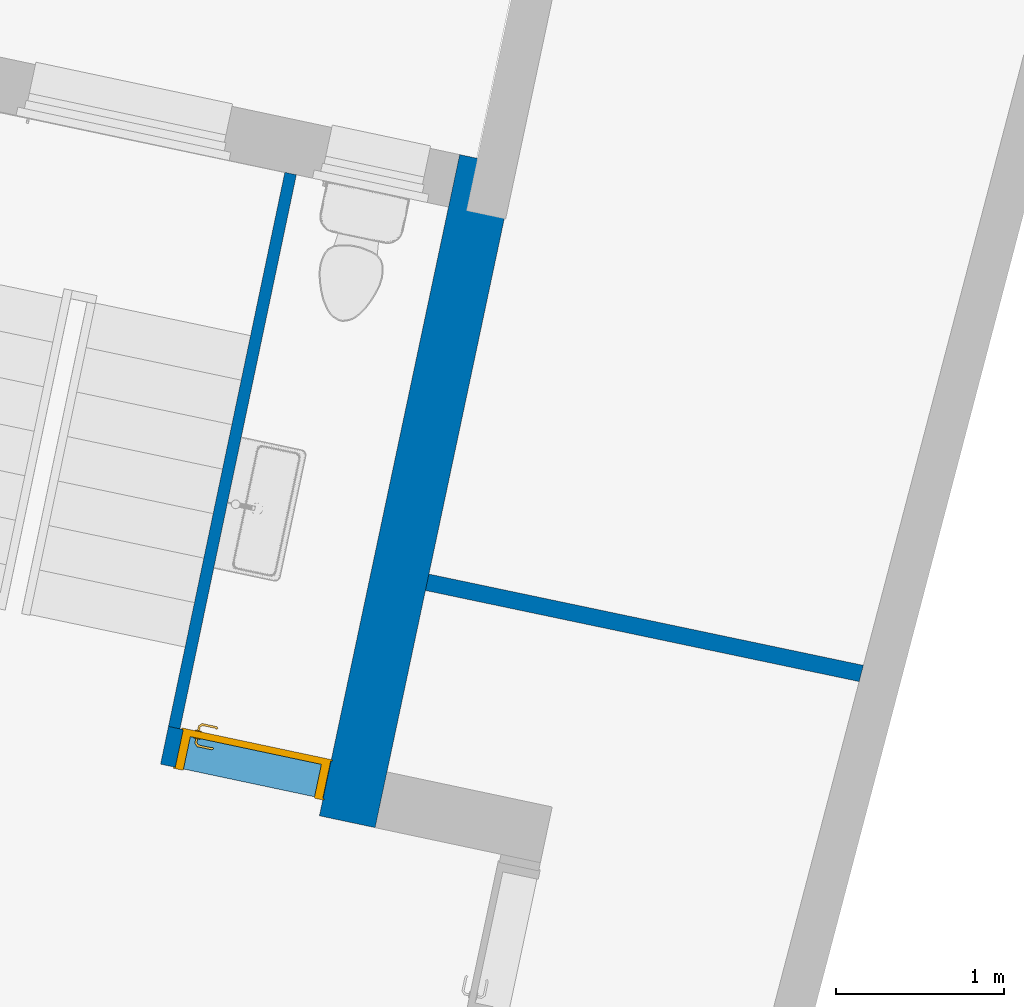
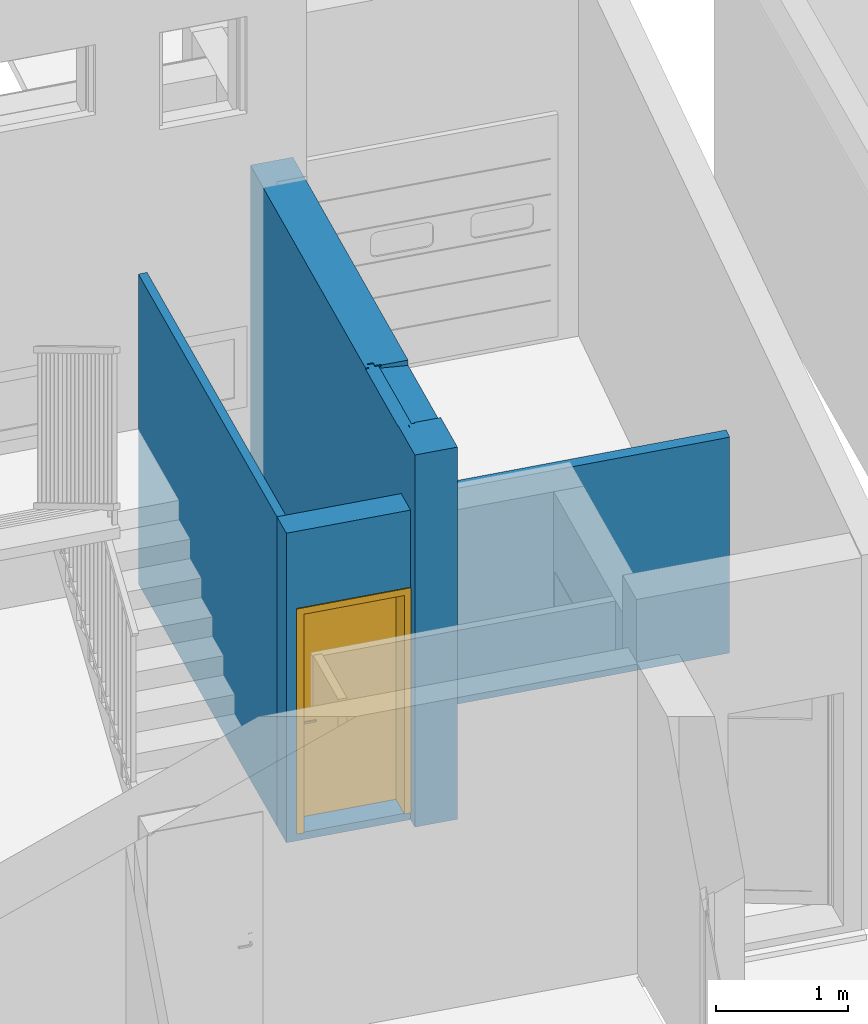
"""IFC2X3 building model written with IfcOpenShell, lengths in metres."""

from ifc_helpers import new_model, entity, si_unit, converted_unit, derived_unit, direction, frame, frame_2d, origin, place, context, subcontext, project, spatial, polyline, rectangle, outline, extrude, faceted_brep, source, transform, mapped, material, material_list, layer, layer_set, layer_usage, type_object, type_shapes, element, fill, save


model = new_model("IFC2X3")

# Units and contexts
model_context = context("Model", 3, precision=1e-05, world=origin(), true_north=direction((6.12303176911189e-17, 1.0)))
body_context = subcontext(model_context, "Body", "Model", "MODEL_VIEW")
ifc_project = project(units=[si_unit("LENGTHUNIT", "METRE"), si_unit("AREAUNIT", "SQUARE_METRE"), si_unit("VOLUMEUNIT", "CUBIC_METRE"), converted_unit("PLANEANGLEUNIT", "DEGREE", entity("IfcRatioMeasure", 0.0174532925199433), si_unit("PLANEANGLEUNIT", "RADIAN"), dimensions=[0, 0, 0, 0, 0, 0, 0]), si_unit("MASSUNIT", "GRAM", prefix="KILO"), derived_unit("MASSDENSITYUNIT", [(si_unit("MASSUNIT", "GRAM", prefix="KILO"), 1), (si_unit("LENGTHUNIT", "METRE"), -3)]), si_unit("TIMEUNIT", "SECOND"), si_unit("FREQUENCYUNIT", "HERTZ"), si_unit("THERMODYNAMICTEMPERATUREUNIT", "DEGREE_CELSIUS"), derived_unit("THERMALTRANSMITTANCEUNIT", [(si_unit("MASSUNIT", "GRAM", prefix="KILO"), 1), (si_unit("THERMODYNAMICTEMPERATUREUNIT", "KELVIN"), -1), (si_unit("TIMEUNIT", "SECOND"), -3)]), derived_unit("VOLUMETRICFLOWRATEUNIT", [(si_unit("LENGTHUNIT", "METRE"), 3), (si_unit("TIMEUNIT", "SECOND"), -1)]), si_unit("ELECTRICCURRENTUNIT", "AMPERE"), si_unit("ELECTRICVOLTAGEUNIT", "VOLT"), si_unit("POWERUNIT", "WATT"), si_unit("FORCEUNIT", "NEWTON", prefix="KILO"), si_unit("ILLUMINANCEUNIT", "LUX"), si_unit("LUMINOUSFLUXUNIT", "LUMEN"), si_unit("LUMINOUSINTENSITYUNIT", "CANDELA"), derived_unit("USERDEFINED", [(si_unit("MASSUNIT", "GRAM", prefix="KILO"), -1), (si_unit("LENGTHUNIT", "METRE"), -2), (si_unit("TIMEUNIT", "SECOND"), 3), (si_unit("LUMINOUSFLUXUNIT", "LUMEN"), 1)]), derived_unit("LINEARVELOCITYUNIT", [(si_unit("LENGTHUNIT", "METRE"), 1), (si_unit("TIMEUNIT", "SECOND"), -1)]), si_unit("PRESSUREUNIT", "PASCAL"), derived_unit("USERDEFINED", [(si_unit("LENGTHUNIT", "METRE"), -2), (si_unit("MASSUNIT", "GRAM", prefix="KILO"), 1), (si_unit("TIMEUNIT", "SECOND"), -2)])], contexts=[model_context])

# Site, building, storey
site_placement = place(None, origin())
site = spatial("IfcSite", under=ifc_project, at=site_placement, Name="Default", CompositionType="ELEMENT")
building_placement = place(site_placement, origin())
building = spatial("IfcBuilding", under=site, at=building_placement, CompositionType="ELEMENT")
storey_1_placement = place(building_placement, frame((0.0, 0.0, -0.0686871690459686)))
storey_1 = spatial("IfcBuildingStorey", under=building, at=storey_1_placement, Name="RDC", CompositionType="ELEMENT", Elevation=-0.0686871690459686)

# Wall, openings
ifc_material_1 = material(Name="Enduit blanc cassé2")
ifc_layer_1 = layer(ifc_material_1, 0.02)
ifc_material_2 = material(Name="Parpaing")
ifc_layer_2 = layer(ifc_material_2, 0.2)
ifc_material_3 = material(Name="Isolant")
ifc_layer_3 = layer(ifc_material_3, 0.12)
ifc_layer_set_1 = layer_set([ifc_layer_1, ifc_layer_2, ifc_layer_3], Name="Mur de base:Ext. Parpaing 20 + Isolant 12 enduit blanc cassé 2")
ifc_layer_usage_1 = layer_usage(ifc_layer_set_1, "AXIS2", "POSITIVE", -0.17)
wall_type_1 = type_object("IfcWallType", Name="Mur de base:Ext. Parpaing 20 + Isolant 12 enduit blanc cassé 2", PredefinedType="STANDARD", material=ifc_layer_set_1)
wall_1_placement = place(storey_1_placement, frame((-11.2703405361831, 81.3453273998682, 0.0), z_axis=(0.0, 0.0, 1.0), x_axis=(0.207484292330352, 0.978238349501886, 0.0)))
wall_1 = element("IfcWallStandardCase", 1, at=wall_1_placement, inside=storey_1, type_object=wall_type_1, material=ifc_layer_usage_1, Name="Mur de base:Ext. Parpaing 20 + Isolant 12 enduit blanc cassé 2", ObjectType="Mur de base:Ext. Parpaing 20 + Isolant 12 enduit blanc cassé 2", context=body_context, shape_type="SweptSolid", body=[
    extrude(rectangle(XDim=4.03521271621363, YDim=0.340000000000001, at=frame_2d((2.01760635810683, -2.02615701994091e-15), x_axis=(-1.0, 0.0))), origin(), (0.0, 0.0, 1.0), 3.44868716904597),
])
opening_1_placement = place(wall_1_placement, frame((0.208247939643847, 0.438742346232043, 3.36272671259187)))
element("IfcOpeningElement", 2, at=opening_1_placement, cuts=wall_1, Name="Mur de base:Ext. Parpaing 20 + Isolant 12 enduit blanc cassé 2", ObjectType="Opening", context=body_context, shape_type="Brep", body=[
    faceted_brep([(1.00245285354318, -0.376376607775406, 0.0759604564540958), (1.00247206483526, -0.396376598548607, 0.0759604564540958), (1.00247206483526, -0.396376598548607, 1.67596045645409), (1.00300998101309, -0.956376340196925, 1.67596045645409), (1.00300998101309, -0.956376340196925, 0.0), (1.00245285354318, -0.376376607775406, 0.0609604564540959), (0.202049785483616, 0.0428547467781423, 0.0759604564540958), (0.202376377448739, -0.297145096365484, 0.0759604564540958), (0.202376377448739, -0.297145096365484, 1.67596045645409), (0.202049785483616, 0.0428547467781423, 1.67596045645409), (1.0020494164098, 0.0436231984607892, 0.0759604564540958), (1.00237600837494, -0.29637664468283, 0.0759604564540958), (1.05237598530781, -0.296328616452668, 0.0759604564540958), (1.05242401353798, -0.346328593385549, 0.0759604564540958), (1.01242403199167, -0.346367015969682, 0.0759604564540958), (1.01247206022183, -0.396366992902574, 0.0759604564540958), (0.202453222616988, -0.377145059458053, 0.0759604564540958), (0.202472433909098, -0.39714505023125, 0.0759604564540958), (0.19247243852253, -0.397154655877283, 0.0759604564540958), (0.192424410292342, -0.347154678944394, 0.0759604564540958), (0.152424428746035, -0.347193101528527, 0.0759604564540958), (0.152376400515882, -0.297193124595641, 0.0759604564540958), (1.0020494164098, 0.0436231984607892, 1.67596045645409), (0.202472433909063, -0.397145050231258, 1.67596045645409), (0.203010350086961, -0.957144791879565, 1.67596045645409), (0.203010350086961, -0.957144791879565, 0.0), (0.202453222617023, -0.377145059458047, 0.0609604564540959), (1.05237598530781, -0.296328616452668, 1.72596045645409), (1.05242401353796, -0.346328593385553, 1.72596045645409), (0.152424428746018, -0.347193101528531, 1.72596045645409), (0.192424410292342, -0.347154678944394, 1.68596045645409), (1.01242403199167, -0.346367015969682, 1.68596045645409), (1.01247206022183, -0.396366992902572, 1.68596045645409), (0.19247243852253, -0.397154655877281, 1.68596045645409), (1.00237600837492, -0.296376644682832, 1.67596045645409), (0.152376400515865, -0.297193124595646, 1.72596045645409)], [[[0, 1, 2, 3, 4, 5]], [[6, 7, 8, 9]], [[10, 11, 12, 13, 14, 15, 1, 0, 16, 17, 18, 19, 20, 21, 7, 6]], [[10, 6, 9, 22]], [[3, 2, 23, 24]], [[3, 24, 25, 4]], [[4, 25, 26, 5]], [[5, 26, 16, 0]], [[12, 27, 28, 13]], [[13, 28, 29, 20, 19, 30, 31, 14]], [[14, 31, 32, 15]], [[15, 32, 33, 18, 17, 23, 2, 1]], [[11, 34, 8, 7, 21, 35, 27, 12]], [[27, 35, 29, 28]], [[30, 33, 32, 31]], [[29, 35, 21, 20]], [[19, 18, 33, 30]], [[9, 8, 34, 22]], [[24, 23, 17, 16, 26, 25]], [[22, 34, 11, 10]]]),
])
opening_2_placement = place(wall_1_placement, origin())
element("IfcOpeningElement", 3, at=opening_2_placement, cuts=wall_1, Name="Mur de base:Ext. Parpaing 20 + Isolant 12 enduit blanc cassé 2", ObjectType="Opening", context=body_context, shape_type="SweptSolid", body=[
    extrude(rectangle(XDim=2.075, YDim=0.230000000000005, at=frame_2d((8.9234175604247e-15, 0.0), x_axis=(0.0, 1.0))), frame((0.220000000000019, 0.171874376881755, 1.10618716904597), z_axis=(0.0, 1.0, 0.0), x_axis=(1.0, 0.0, 0.0)), (0.0, 0.0, 1.0), 0.900000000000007),
])
opening_3_placement = place(wall_1_placement, origin())
element("IfcOpeningElement", 4, at=opening_3_placement, cuts=wall_1, Name="Mur de base:Ext. Parpaing 20 + Isolant 12 enduit blanc cassé 2", ObjectType="Opening", context=body_context, shape_type="SweptSolid", body=[
    extrude(rectangle(XDim=2.075, YDim=0.070000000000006, at=frame_2d((8.9234175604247e-15, 3.33066907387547e-16), x_axis=(0.0, 1.0))), frame((1.51000000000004, 0.191681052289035, 3.90618716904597), z_axis=(0.0, 1.0, 0.0), x_axis=(1.0, 0.0, 0.0)), (0.0, 0.0, 1.0), 0.800000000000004),
])

# Wall, opening
ifc_material_4 = material(Name="Blanc - Element de salle de bains")
ifc_layer_4 = layer(ifc_material_4, 0.07)
ifc_layer_set_2 = layer_set([ifc_layer_4], Name="Mur de base:Int.  Platre 70 mm en blanc")
ifc_layer_usage_2 = layer_usage(ifc_layer_set_2, "AXIS2", "POSITIVE", -0.035)
wall_type_2 = type_object("IfcWallType", Name="Mur de base:Int.  Platre 70 mm en blanc", PredefinedType="STANDARD", material=ifc_layer_set_2)
wall_2_placement = place(storey_1_placement, frame((-11.6085144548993, 85.2149850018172, 0.0), z_axis=(0.0, 0.0, 1.0), x_axis=(-0.205556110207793, -0.978645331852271, 0.0)))
wall_2 = element("IfcWallStandardCase", 5, at=wall_2_placement, inside=storey_1, type_object=wall_type_2, material=ifc_layer_usage_2, Name="Mur de base:Int.  Platre 70 mm en blanc", ObjectType="Mur de base:Int.  Platre 70 mm en blanc", context=body_context, shape_type="SweptSolid", body=[
    extrude(outline(polyline([(3.38021927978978, -0.0350000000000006), (3.38035722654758, 0.0350000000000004), (0.000137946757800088, 0.0350000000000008), (0.0, -0.0350000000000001), (3.38021927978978, -0.0350000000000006)])), origin(), (0.0, 0.0, 1.0), 2.86868716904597),
])
opening_4_placement = place(wall_2_placement, origin())
element("IfcOpeningElement", 6, at=opening_4_placement, cuts=wall_2, Name="Mur de base:Int.  Platre 70 mm en blanc", ObjectType="Opening", context=body_context, shape_type="SweptSolid", body=[
    extrude(rectangle(XDim=2.075, YDim=0.070000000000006, at=frame_2d((-8.9234175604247e-15, 3.33066907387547e-16), x_axis=(0.0, 1.0))), frame((2.20555729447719, 0.137680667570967, 3.90618716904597), z_axis=(0.00197066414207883, 0.999998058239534, 0.0), x_axis=(-0.999998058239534, 0.00197066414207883, 0.0)), (0.0, 0.0, 1.0), 0.799999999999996),
])

ifc_layer_5 = layer(ifc_material_1, 0.015)
ifc_layer_6 = layer(ifc_material_2, 0.2)
ifc_layer_7 = layer(ifc_material_1, 0.015)
ifc_layer_set_3 = layer_set([ifc_layer_5, ifc_layer_6, ifc_layer_7], Name="Mur de base:Ext. Parpaing 20 + 2 x 1.5")
ifc_layer_usage_3 = layer_usage(ifc_layer_set_3, "AXIS2", "POSITIVE", -0.115)
wall_type_3 = type_object("IfcWallType", Name="Mur de base:Ext. Parpaing 20 + 2 x 1.5", PredefinedType="STANDARD", material=ifc_layer_set_3)
wall_3_placement = place(storey_1_placement, frame((-11.3909945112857, 81.5958121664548, 0.0), z_axis=(0.0, 0.0, 1.0), x_axis=(-0.978238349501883, 0.207484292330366, 0.0)))
wall_3 = element("IfcWallStandardCase", 7, at=wall_3_placement, inside=storey_1, type_object=wall_type_3, material=ifc_layer_usage_3, Name="Mur de base:Ext. Parpaing 20 + 2 x 1.5", ObjectType="Mur de base:Ext. Parpaing 20 + 2 x 1.5", context=body_context, shape_type="SweptSolid", body=[
    extrude(outline(polyline([(0.992046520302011, -0.115000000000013), (0.991593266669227, 0.114999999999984), (0.0, 0.114999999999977), (0.0, -0.115000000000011), (0.922046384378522, -0.115000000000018), (0.992046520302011, -0.115000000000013)])), origin(), (0.0, 0.0, 1.0), 2.86868716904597),
])
opening_5_placement = place(wall_3_placement, frame((0.901874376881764, 0.115, 0.0686871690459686)))
opening_5 = element("IfcOpeningElement", 8, at=opening_5_placement, cuts=wall_3, Name="FR_Simple (R):83 x 204 - (80):1", ObjectType="Opening", context=body_context, shape_type="SweptSolid", body=[
    extrude(rectangle(XDim=2.075, YDim=0.9, at=frame_2d((1.0375, 0.45), x_axis=(1.0, 0.0))), frame((0.0, 0.0, 0.0), z_axis=(0.0, -1.0, 0.0), x_axis=(0.0, 0.0, 1.0)), (0.0, 0.0, 1.0), 0.23),
])

# Storey
storey_2_placement = place(building_placement, origin())
storey_2 = spatial("IfcBuildingStorey", under=building, at=storey_2_placement, Name="Plan des fondations  Maisons 1 et 2", CompositionType="ELEMENT", Elevation=0.0)

# Door
ifc_material_5 = material(Name="Poignée Porte")
ifc_material_6 = material(Name="Dormants Portes")
ifc_material_7 = material(Name="Panneaux Portes")
ifc_material_list_1 = material_list([ifc_material_5, ifc_material_6, ifc_material_7])
ifc_material_list_2 = material_list([ifc_material_5, ifc_material_6, ifc_material_7])
door_style = type_object("IfcDoorStyle", Name="83 x 204 - (80)", ConstructionType="NOTDEFINED", OperationType="SINGLE_SWING_RIGHT", ParameterTakesPrecedence=False, Sizeable=False, material=ifc_material_list_2)
shared_shape = source(origin(), body_context, "Body", "Brep", [
    faceted_brep([(0.810000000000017, -0.0130000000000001, 0.764641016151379), (0.820352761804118, -0.0130000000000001, 0.766003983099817), (0.830000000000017, -0.0130000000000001, 0.770000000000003), (0.830000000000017, -0.0130000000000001, 0.980000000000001), (0.820352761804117, -0.0130000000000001, 0.983996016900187), (0.810000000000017, -0.0130000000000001, 0.985358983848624), (0.799647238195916, -0.0130000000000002, 0.983996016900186), (0.790000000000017, -0.0130000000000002, 0.980000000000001), (0.790000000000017, -0.0130000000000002, 0.770000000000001), (0.799647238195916, -0.0130000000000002, 0.766003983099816), (0.830000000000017, -0.00800000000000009, 0.980000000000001), (0.830000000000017, -0.00800000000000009, 0.770000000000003), (0.820352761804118, -0.00800000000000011, 0.766003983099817), (0.810000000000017, -0.00800000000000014, 0.764641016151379), (0.799647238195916, -0.00800000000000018, 0.766003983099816), (0.790000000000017, -0.00800000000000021, 0.770000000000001), (0.790000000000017, -0.00800000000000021, 0.980000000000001), (0.799647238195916, -0.00800000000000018, 0.983996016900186), (0.810000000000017, -0.00800000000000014, 0.985358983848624), (0.820352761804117, -0.00800000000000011, 0.983996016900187)], [[[0, 1, 2, 3, 4, 5, 6, 7, 8, 9]], [[10, 11, 12, 13, 14, 15, 16, 17, 18, 19]], [[1, 12, 11, 2]], [[0, 13, 12, 1]], [[9, 14, 13, 0]], [[9, 8, 15, 14]], [[15, 8, 7, 16]], [[6, 17, 16, 7]], [[5, 18, 17, 6]], [[4, 19, 18, 5]], [[4, 3, 10, 19]], [[10, 3, 2, 11]]]),
    faceted_brep([(0.830000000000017, 0.0319999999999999, 0.770000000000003), (0.830000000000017, 0.0319999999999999, 0.980000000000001), (0.820352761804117, 0.0319999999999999, 0.983996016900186), (0.810000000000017, 0.0319999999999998, 0.985358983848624), (0.799647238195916, 0.0319999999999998, 0.983996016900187), (0.790000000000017, 0.0319999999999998, 0.980000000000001), (0.790000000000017, 0.0319999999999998, 0.770000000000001), (0.799647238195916, 0.0319999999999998, 0.766003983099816), (0.810000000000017, 0.0319999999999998, 0.764641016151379), (0.820352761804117, 0.0319999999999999, 0.766003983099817), (0.810000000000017, 0.0369999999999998, 0.985358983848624), (0.820352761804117, 0.0369999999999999, 0.983996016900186), (0.830000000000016, 0.0369999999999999, 0.980000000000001), (0.830000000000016, 0.0369999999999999, 0.770000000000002), (0.820352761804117, 0.0369999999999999, 0.766003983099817), (0.810000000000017, 0.0369999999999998, 0.764641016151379), (0.799647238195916, 0.0369999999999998, 0.766003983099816), (0.790000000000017, 0.0369999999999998, 0.770000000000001), (0.790000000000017, 0.0369999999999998, 0.980000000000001), (0.799647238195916, 0.0369999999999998, 0.983996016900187)], [[[0, 1, 2, 3, 4, 5, 6, 7, 8, 9]], [[10, 11, 12, 13, 14, 15, 16, 17, 18, 19]], [[4, 19, 18, 5]], [[3, 10, 19, 4]], [[2, 11, 10, 3]], [[2, 1, 12, 11]], [[12, 1, 0, 13]], [[9, 14, 13, 0]], [[8, 15, 14, 9]], [[7, 16, 15, 8]], [[7, 6, 17, 16]], [[17, 6, 5, 18]]]),
    faceted_brep([(0.807974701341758, -0.0130000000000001, 0.907780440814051), (0.812025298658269, -0.0130000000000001, 0.907780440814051), (0.816000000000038, -0.0130000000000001, 0.906999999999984), (0.816000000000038, -0.0130000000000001, 0.892999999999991), (0.812025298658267, -0.0130000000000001, 0.892219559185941), (0.807974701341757, -0.0130000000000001, 0.89221955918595), (0.80399999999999, -0.0130000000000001, 0.893000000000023), (0.803999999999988, -0.0130000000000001, 0.90699999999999), (0.812025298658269, -0.039004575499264, 0.907780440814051), (0.816000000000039, -0.0406509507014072, 0.906999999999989), (0.807974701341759, -0.0373267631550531, 0.907780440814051), (0.794298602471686, -0.0510028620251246, 0.907780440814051), (0.795976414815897, -0.0550534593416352, 0.907780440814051), (0.709142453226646, -0.0550534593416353, 0.90778044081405), (0.710820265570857, -0.0510028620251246, 0.90778044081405), (0.704342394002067, -0.0445249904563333, 0.90778044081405), (0.701478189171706, -0.0473891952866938, 0.90778044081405), (0.803999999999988, -0.0356803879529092, 0.90699999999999), (0.80399999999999, -0.0356803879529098, 0.893000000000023), (0.807974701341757, -0.0373267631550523, 0.89221955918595), (0.812025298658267, -0.0390045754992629, 0.89221955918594), (0.795976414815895, -0.0550534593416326, 0.89221955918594), (0.794298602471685, -0.0510028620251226, 0.89221955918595), (0.710820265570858, -0.0510028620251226, 0.89221955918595), (0.709142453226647, -0.0550534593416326, 0.89221955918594), (0.701478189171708, -0.0473891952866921, 0.89221955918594), (0.704342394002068, -0.044524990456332, 0.89221955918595), (0.816000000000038, -0.0406509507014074, 0.892999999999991), (0.797622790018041, -0.0590281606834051, 0.906999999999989), (0.792652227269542, -0.0470281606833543, 0.90699999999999), (0.792652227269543, -0.0470281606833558, 0.893000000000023), (0.79762279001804, -0.0590281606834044, 0.892999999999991), (0.752559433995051, -0.0531828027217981, 0.907878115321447), (0.757692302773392, -0.0590281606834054, 0.906999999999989), (0.707496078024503, -0.0590281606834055, 0.906999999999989), (0.752559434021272, -0.0470281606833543, 0.90699999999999), (0.712466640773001, -0.0470281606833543, 0.906999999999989), (0.752559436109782, -0.0470281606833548, 0.893000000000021), (0.712466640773, -0.0470281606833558, 0.893000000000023), (0.752559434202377, -0.0531828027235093, 0.892121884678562), (0.747426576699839, -0.0590281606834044, 0.892999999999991), (0.707496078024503, -0.0590281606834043, 0.892999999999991), (0.707152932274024, -0.0417144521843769, 0.89300000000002), (0.69866765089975, -0.0501997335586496, 0.892999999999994), (0.698667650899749, -0.0501997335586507, 0.906999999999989), (0.707152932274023, -0.0417144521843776, 0.906999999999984)], [[[0, 1, 2, 3, 4, 5, 6, 7]], [[2, 1, 8, 9]], [[1, 0, 10, 11, 12, 8]], [[13, 14, 15, 16]], [[0, 7, 17, 10]], [[18, 17, 7, 6]], [[5, 19, 18, 6]], [[5, 4, 20, 21, 22, 19]], [[23, 24, 25, 26]], [[3, 27, 20, 4]], [[9, 27, 3, 2]], [[9, 8, 12, 28]], [[10, 17, 29, 11]], [[30, 29, 17, 18]], [[18, 19, 22, 30]], [[20, 27, 31, 21]], [[28, 31, 27, 9]], [[12, 32, 33]], [[13, 33, 32]], [[33, 28, 12]], [[33, 13, 34]], [[11, 35, 32]], [[32, 12, 11]], [[32, 35, 14]], [[35, 11, 29]], [[36, 14, 35]], [[13, 32, 14]], [[30, 37, 38, 36, 35, 29]], [[39, 37, 22]], [[40, 41, 24]], [[40, 21, 31]], [[39, 21, 40]], [[23, 37, 39]], [[39, 24, 23]], [[30, 22, 37]], [[37, 23, 38]], [[21, 39, 22]], [[24, 39, 40]], [[31, 28, 33, 34, 41, 40]], [[42, 26, 25, 43, 44, 16, 15, 45]], [[13, 16, 44, 34]], [[36, 45, 15, 14]], [[42, 45, 36, 38]], [[38, 23, 26, 42]], [[24, 41, 43, 25]], [[44, 43, 41, 34]]]),
    faceted_brep([(0.812025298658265, 0.0369999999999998, 0.907780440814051), (0.807974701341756, 0.0369999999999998, 0.907780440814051), (0.803999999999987, 0.0369999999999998, 0.90699999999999), (0.803999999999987, 0.0369999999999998, 0.89300000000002), (0.807974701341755, 0.0369999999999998, 0.892219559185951), (0.812025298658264, 0.0369999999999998, 0.892219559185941), (0.816000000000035, 0.0369999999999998, 0.892999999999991), (0.816000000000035, 0.0369999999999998, 0.90699999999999), (0.803999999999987, 0.0594852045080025, 0.90699999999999), (0.803999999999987, 0.0594852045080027, 0.89300000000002), (0.807974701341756, 0.0611315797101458, 0.907780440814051), (0.812025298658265, 0.0628093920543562, 0.907780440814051), (0.795838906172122, 0.0789957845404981, 0.907780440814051), (0.794161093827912, 0.0749451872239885, 0.907780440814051), (0.71079312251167, 0.0749451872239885, 0.907780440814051), (0.70911531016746, 0.0789957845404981, 0.907780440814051), (0.701451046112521, 0.071331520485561, 0.907780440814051), (0.70431525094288, 0.0684673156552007, 0.907780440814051), (0.816000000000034, 0.0644557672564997, 0.90699999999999), (0.816000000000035, 0.0644557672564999, 0.892999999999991), (0.812025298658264, 0.0628093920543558, 0.892219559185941), (0.807974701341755, 0.0611315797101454, 0.892219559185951), (0.794161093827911, 0.0749451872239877, 0.892219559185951), (0.795838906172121, 0.0789957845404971, 0.892219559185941), (0.70911531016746, 0.0789957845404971, 0.89221955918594), (0.71079312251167, 0.0749451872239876, 0.89221955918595), (0.704315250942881, 0.0684673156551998, 0.89221955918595), (0.701451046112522, 0.07133152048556, 0.89221955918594), (0.792514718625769, 0.0709704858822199, 0.89300000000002), (0.792514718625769, 0.0709704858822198, 0.90699999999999), (0.797485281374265, 0.0829704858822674, 0.90699999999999), (0.797485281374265, 0.082970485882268, 0.892999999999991), (0.752477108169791, 0.0709704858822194, 0.90699999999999), (0.712439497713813, 0.0709704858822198, 0.90699999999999), (0.712439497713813, 0.0709704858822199, 0.89300000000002), (0.752477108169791, 0.0709704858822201, 0.89300000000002), (0.752477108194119, 0.0771249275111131, 0.907878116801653), (0.747399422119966, 0.0829704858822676, 0.90699999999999), (0.707468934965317, 0.0829704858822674, 0.90699999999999), (0.757554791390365, 0.0829704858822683, 0.892999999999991), (0.707468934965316, 0.082970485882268, 0.892999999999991), (0.752477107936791, 0.0771249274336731, 0.892121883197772), (0.698640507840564, 0.0741420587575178, 0.90699999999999), (0.698640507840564, 0.074142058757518, 0.892999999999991), (0.707125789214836, 0.0656567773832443, 0.89300000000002), (0.707125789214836, 0.0656567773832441, 0.90699999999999)], [[[0, 1, 2, 3, 4, 5, 6, 7]], [[8, 9, 3, 2]], [[1, 10, 8, 2]], [[1, 0, 11, 12, 13, 10]], [[14, 15, 16, 17]], [[7, 18, 11, 0]], [[18, 7, 6, 19]], [[6, 5, 20, 19]], [[5, 4, 21, 22, 23, 20]], [[24, 25, 26, 27]], [[4, 3, 9, 21]], [[28, 9, 8, 29]], [[8, 10, 13, 29]], [[18, 30, 12, 11]], [[31, 30, 18, 19]], [[19, 20, 23, 31]], [[21, 9, 28, 22]], [[28, 29, 32, 33, 34, 35]], [[36, 32, 13]], [[37, 38, 15]], [[37, 12, 30]], [[36, 12, 37]], [[14, 32, 36]], [[36, 15, 14]], [[29, 13, 32]], [[32, 14, 33]], [[12, 36, 13]], [[15, 36, 37]], [[30, 31, 39, 40, 38, 37]], [[23, 41, 39]], [[24, 39, 41]], [[39, 31, 23]], [[39, 24, 40]], [[22, 35, 41]], [[41, 23, 22]], [[41, 35, 25]], [[35, 22, 28]], [[34, 25, 35]], [[24, 41, 25]], [[17, 16, 42, 43, 27, 26, 44, 45]], [[44, 34, 33, 45]], [[33, 14, 17, 45]], [[15, 38, 42, 16]], [[42, 38, 40, 43]], [[24, 27, 43, 40]], [[34, 44, 26, 25]]]),
    faceted_brep([(0.900000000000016, 0.0, 0.0), (0.910000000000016, 0.0, 0.0), (0.910000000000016, -0.00799999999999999, 0.0), (0.865000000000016, -0.00799999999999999, 0.0), (0.865000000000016, 0.032, 0.0), (0.850000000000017, 0.032, 0.0), (0.850000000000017, 0.238000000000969, 0.0), (0.910000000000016, 0.238000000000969, 0.0), (0.910000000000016, 0.23000000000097, 0.0), (0.900000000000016, 0.23000000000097, 0.0), (0.900000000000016, 0.23000000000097, 2.075), (0.900000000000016, 0.0, 2.075), (0.910000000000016, 0.23000000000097, 2.085), (-0.00999999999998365, 0.23000000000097, 2.085), (-0.00999999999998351, 0.23000000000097, 0.0), (0.0, 0.23000000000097, 0.0), (0.0, 0.23000000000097, 2.075), (0.910000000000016, 0.238000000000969, 2.085), (0.850000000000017, 0.238000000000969, 2.025), (0.0500000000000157, 0.238000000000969, 2.025), (0.0500000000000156, 0.238000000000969, 0.0), (-0.00999999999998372, 0.238000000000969, 0.0), (-0.00999999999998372, 0.238000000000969, 2.085), (0.850000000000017, 0.032, 2.025), (0.865000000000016, 0.032, 2.04), (0.0350000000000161, 0.032, 2.04), (0.0350000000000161, 0.032, 0.0), (0.0500000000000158, 0.032, 0.0), (0.0500000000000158, 0.032, 2.025), (0.865000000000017, -0.00799999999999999, 2.04), (0.910000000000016, -0.00799999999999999, 2.085), (-0.00999999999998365, -0.00799999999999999, 2.085), (-0.00999999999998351, -0.00799999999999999, 0.0), (0.0350000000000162, -0.00799999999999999, 0.0), (0.0350000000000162, -0.00799999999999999, 2.04), (0.910000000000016, 0.0, 2.085), (0.0, 0.0, 2.075), (0.0, 0.0, 0.0), (-0.00999999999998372, 0.0, 0.0), (-0.00999999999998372, 0.0, 2.085)], [[[0, 1, 2, 3, 4, 5, 6, 7, 8, 9]], [[9, 10, 11, 0]], [[8, 12, 13, 14, 15, 16, 10, 9]], [[7, 17, 12, 8]], [[6, 18, 19, 20, 21, 22, 17, 7]], [[5, 23, 18, 6]], [[4, 24, 25, 26, 27, 28, 23, 5]], [[3, 29, 24, 4]], [[2, 30, 31, 32, 33, 34, 29, 3]], [[1, 35, 30, 2]], [[0, 11, 36, 37, 38, 39, 35, 1]], [[10, 16, 36, 11]], [[17, 22, 13, 12]], [[23, 28, 19, 18]], [[29, 34, 25, 24]], [[35, 39, 31, 30]], [[37, 15, 14, 21, 20, 27, 26, 33, 32, 38]], [[16, 15, 37, 36]], [[22, 21, 14, 13]], [[28, 27, 20, 19]], [[34, 33, 26, 25]], [[39, 38, 32, 31]]]),
    faceted_brep([(0.865000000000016, -0.00799999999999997, 2.04), (0.0350000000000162, -0.00799999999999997, 2.04), (0.0350000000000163, -0.00799999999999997, 0.0), (0.865000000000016, -0.00799999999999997, 0.0), (0.865000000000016, 0.032, 2.04), (0.865000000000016, 0.032, 0.0), (0.0350000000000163, 0.032, 0.0), (0.0350000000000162, 0.032, 2.04)], [[[0, 1, 2, 3]], [[4, 5, 6, 7]], [[3, 5, 4, 0]], [[2, 6, 5, 3]], [[1, 7, 6, 2]], [[0, 4, 7, 1]]]),
])
type_shapes(door_style, [shared_shape])
door_placement = place(opening_5_placement, frame((-0.900000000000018, -0.229999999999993, 0.0)))
door = element("IfcDoor", 9, at=door_placement, inside=storey_2, type_object=door_style, material=ifc_material_list_1, Name="FR_Simple (R):83 x 204 - (80)", ObjectType="FR_Simple (R):83 x 204 - (80)", OverallHeight=2.075, OverallWidth=0.9, context=body_context, shape_type="MappedRepresentation", body=[
    mapped(shared_shape, transform((0.0, 0.0, 0.0), scale=1.0)),
])

fill(opening_5, door)

# Wall
ifc_layer_8 = layer(ifc_material_4, 0.1)
ifc_layer_set_4 = layer_set([ifc_layer_8], Name="Mur de base:Int.  Platre 100  mm en blanc 2")
ifc_layer_usage_4 = layer_usage(ifc_layer_set_4, "AXIS2", "NEGATIVE", 0.05)
wall_type_4 = type_object("IfcWallType", Name="Mur de base:Int.  Platre 100  mm en blanc 2", PredefinedType="STANDARD", material=ifc_layer_set_4)
wall_4_placement = place(storey_1_placement, frame((-10.7934627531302, 82.774826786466, 0.0), z_axis=(0.0, 0.0, 1.0), x_axis=(0.978645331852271, -0.205556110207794, 0.0)))
element("IfcWallStandardCase", 10, at=wall_4_placement, inside=storey_1, type_object=wall_type_4, material=ifc_layer_usage_4, Name="Mur de base:Int.  Platre 100  mm en blanc 2", ObjectType="Mur de base:Int.  Platre 100  mm en blanc 2", context=body_context, shape_type="SweptSolid", body=[
    extrude(outline(polyline([(2.64594685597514, -0.0499999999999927), (2.65093154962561, 0.0500000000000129), (0.000197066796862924, 0.0500000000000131), (0.0, -0.0500000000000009), (2.64594685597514, -0.0499999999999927)])), origin(), (0.0, 0.0, 1.0), 2.0),
])

save(model, "model.ifc")
